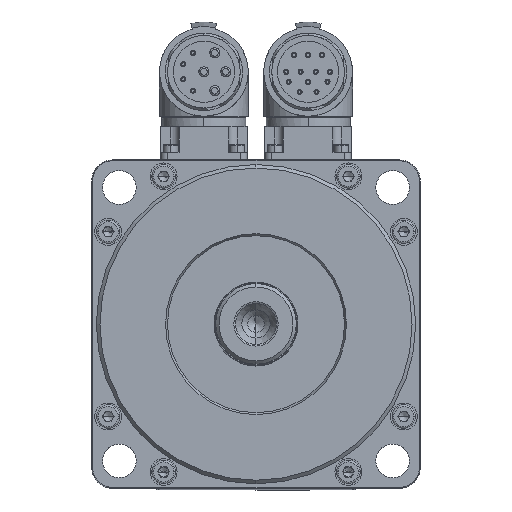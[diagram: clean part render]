
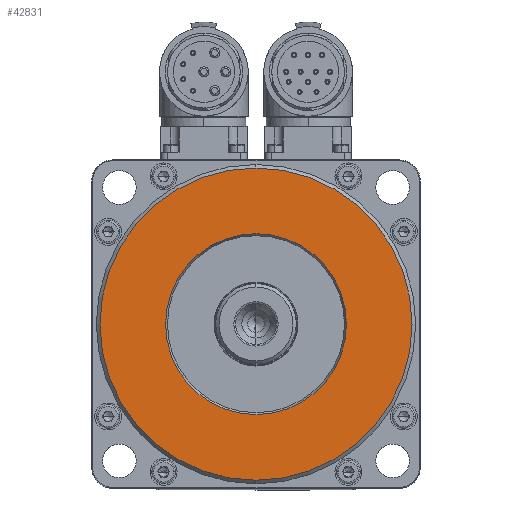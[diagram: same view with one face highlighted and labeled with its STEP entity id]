
A CAD part, top view. The second image highlights one B-rep face of the part: STEP entity #42831.
In plain terms, the highlighted planar face has unit normal (0, 0, 1).
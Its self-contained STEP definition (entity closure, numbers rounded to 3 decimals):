
#1091 = EDGE_CURVE ( 'NONE', #10496, #21272, #28102, .T. ) ;
#3885 = CARTESIAN_POINT ( 'NONE',  ( 0., 46.433, 75.864 ) ) ;
#4520 = DIRECTION ( 'NONE',  ( 0., 1., 0. ) ) ;
#5129 = AXIS2_PLACEMENT_3D ( 'NONE', #26545, #46774, #36550 ) ;
#5175 = AXIS2_PLACEMENT_3D ( 'NONE', #54110, #39150, #4520 ) ;
#6226 = CIRCLE ( 'NONE', #45196, 26.908 ) ;
#10496 = VERTEX_POINT ( 'NONE', #3885 ) ;
#12510 = CIRCLE ( 'NONE', #5175, 46.433 ) ;
#17293 = CARTESIAN_POINT ( 'NONE',  ( 0., -46.433, 75.864 ) ) ;
#18426 = AXIS2_PLACEMENT_3D ( 'NONE', #57652, #43096, #47639 ) ;
#18432 = EDGE_CURVE ( 'NONE', #31486, #63124, #24751, .T. ) ;
#19465 = FACE_OUTER_BOUND ( 'NONE', #49319, .T. ) ;
#21272 = VERTEX_POINT ( 'NONE', #17293 ) ;
#21868 = AXIS2_PLACEMENT_3D ( 'NONE', #34809, #29393, #54815 ) ;
#24084 = EDGE_LOOP ( 'NONE', ( #29858, #31044 ) ) ;
#24751 = CIRCLE ( 'NONE', #21868, 26.908 ) ;
#26545 = CARTESIAN_POINT ( 'NONE',  ( 0., 0., 75.864 ) ) ;
#26877 = ORIENTED_EDGE ( 'NONE', *, *, #37031, .T. ) ;
#28102 = CIRCLE ( 'NONE', #5129, 46.433 ) ;
#29393 = DIRECTION ( 'NONE',  ( 0., 0., -1. ) ) ;
#29858 = ORIENTED_EDGE ( 'NONE', *, *, #57446, .T. ) ;
#31044 = ORIENTED_EDGE ( 'NONE', *, *, #18432, .T. ) ;
#31206 = FACE_BOUND ( 'NONE', #24084, .T. ) ;
#31486 = VERTEX_POINT ( 'NONE', #53693 ) ;
#34809 = CARTESIAN_POINT ( 'NONE',  ( 0., 0., 75.864 ) ) ;
#35771 = CARTESIAN_POINT ( 'NONE',  ( 0., 0., 75.864 ) ) ;
#36550 = DIRECTION ( 'NONE',  ( 0., 1., 0. ) ) ;
#37031 = EDGE_CURVE ( 'NONE', #21272, #10496, #12510, .T. ) ;
#39150 = DIRECTION ( 'NONE',  ( 0., 0., 1. ) ) ;
#42831 = ADVANCED_FACE ( 'NONE', ( #19465, #31206 ), #62857, .F. ) ;
#43096 = DIRECTION ( 'NONE',  ( 0., 0., -1. ) ) ;
#45196 = AXIS2_PLACEMENT_3D ( 'NONE', #35771, #59716, #55115 ) ;
#46774 = DIRECTION ( 'NONE',  ( 0., 0., 1. ) ) ;
#47639 = DIRECTION ( 'NONE',  ( 0., 1., 0. ) ) ;
#49319 = EDGE_LOOP ( 'NONE', ( #56417, #26877 ) ) ;
#53693 = CARTESIAN_POINT ( 'NONE',  ( 0., 26.908, 75.864 ) ) ;
#54110 = CARTESIAN_POINT ( 'NONE',  ( 0., 0., 75.864 ) ) ;
#54815 = DIRECTION ( 'NONE',  ( 0., 1., 0. ) ) ;
#55071 = CARTESIAN_POINT ( 'NONE',  ( 0., -26.908, 75.864 ) ) ;
#55115 = DIRECTION ( 'NONE',  ( 0., 1., 0. ) ) ;
#56417 = ORIENTED_EDGE ( 'NONE', *, *, #1091, .T. ) ;
#57446 = EDGE_CURVE ( 'NONE', #63124, #31486, #6226, .T. ) ;
#57652 = CARTESIAN_POINT ( 'NONE',  ( 0., 0., 75.864 ) ) ;
#59716 = DIRECTION ( 'NONE',  ( 0., 0., -1. ) ) ;
#62857 = PLANE ( 'NONE',  #18426 ) ;
#63124 = VERTEX_POINT ( 'NONE', #55071 ) ;
